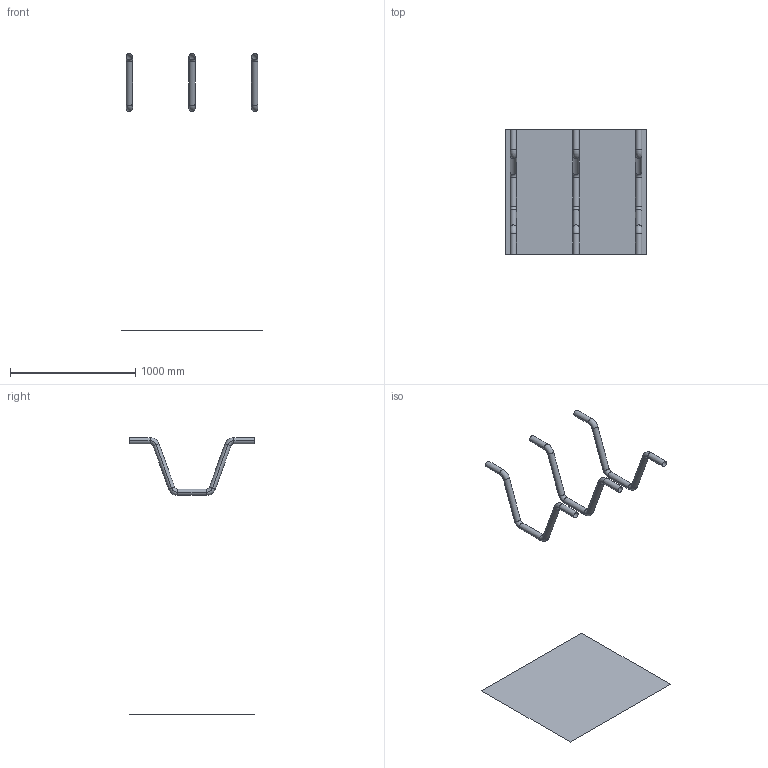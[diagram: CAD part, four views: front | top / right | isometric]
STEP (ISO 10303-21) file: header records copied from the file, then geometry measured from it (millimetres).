
FILE_DESCRIPTION(('CATIA V5 STEP Exchange'),'2;1');
FILE_NAME('C:\_Andres\UNIVERSIDAD\IQS\ASIGNATURAS\DAO\EXF\EXF-16172c\2inicio\Gumá_Abizanda_Ej08_v13.stp','2017-03-05T21:54:51+00:00',('none'),('none'),'CATIA Version 5-6 Release 2014 SP1 HF18','CATIA V5 STEP AP203','none');
FILE_SCHEMA(('CONFIG_CONTROL_DESIGN'));
Length unit declared in the file: millimetre
Products named in the file (1): Gumá_Abizanda_Ej08_v13
Bounding box: 1130 x 1000 x 2212 mm (x, y, z)
Surface area: 1857116.1 mm2 (no closed solid volume)
Topology: 0 solids, 4 shells, 55 faces, 118 edges, 64 vertices
Faces by surface type: cylinder 30, torus 24, plane 1
Entity records: 1283 total; most frequent: ORIENTED_EDGE 220, CARTESIAN_POINT 208, DIRECTION 168, EDGE_CURVE 118, AXIS2_PLACEMENT_3D 110, CIRCLE 84, VERTEX_POINT 64, ADVANCED_FACE 55
